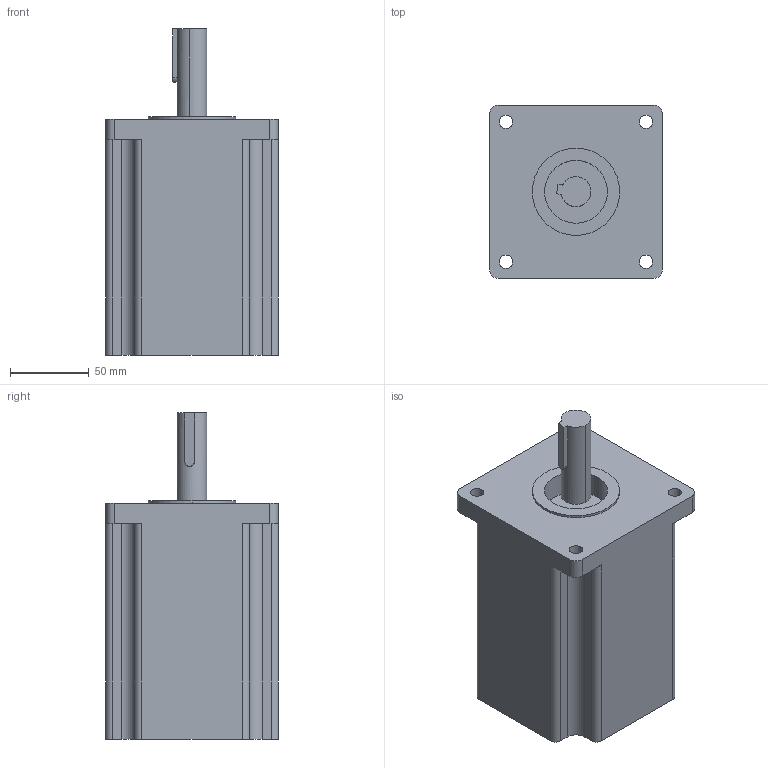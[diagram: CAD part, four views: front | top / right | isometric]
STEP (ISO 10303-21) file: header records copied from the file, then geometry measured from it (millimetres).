
FILE_DESCRIPTION (( 'STEP AP203' ), '1' );
FILE_NAME ('110CM20 MS20.STEP', '2021-04-29T09:29:20', ( 'Owner' ), ( 'Organization' ), 'SwSTEP 2.0', 'SolidWorks 2018', '' );
FILE_SCHEMA (( 'CONFIG_CONTROL_DESIGN' ));
Length unit declared in the file: millimetre
Products named in the file (3): 110隅赽_Default_Default; 蛌赽_Default_Default; 110CM20 MS20
Assembly tree (2 placements, depth 2):
  110CM20 MS20
    110隅赽_Default_Default
    蛌赽_Default_Default
Bounding box: 110 x 110 x 207.5 mm (x, y, z)
Volume: 1629631.9 mm3; surface area: 93542.9 mm2
Topology: 2 solids, 2 shells, 57 faces, 153 edges, 102 vertices
Faces by surface type: cylinder 32, plane 25
Entity records: 2157 total; most frequent: CARTESIAN_POINT 347, DIRECTION 338, ORIENTED_EDGE 306, EDGE_CURVE 153, AXIS2_PLACEMENT_3D 125, VERTEX_POINT 102, VECTOR 88, LINE 88
